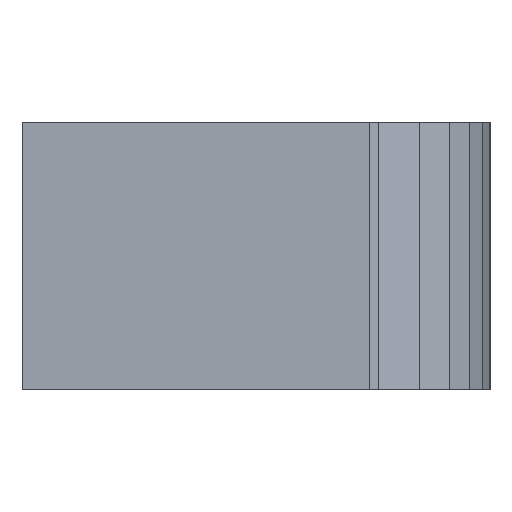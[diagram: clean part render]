
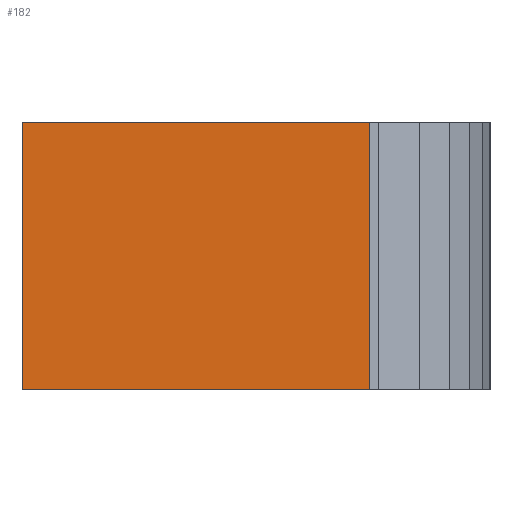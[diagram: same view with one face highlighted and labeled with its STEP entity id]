
A CAD part, front view. The second image highlights one B-rep face of the part: STEP entity #182.
In plain terms, the highlighted planar face has unit normal (0, -1, 0).
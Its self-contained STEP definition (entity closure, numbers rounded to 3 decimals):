
#37 = VECTOR ( 'NONE', #72, 1000. ) ;
#72 = DIRECTION ( 'NONE',  ( 1., 0., 0. ) ) ;
#89 = ORIENTED_EDGE ( 'NONE', *, *, #434, .F. ) ;
#112 = CARTESIAN_POINT ( 'NONE',  ( 13.006, 0., -10. ) ) ;
#114 = EDGE_CURVE ( 'NONE', #531, #712, #496, .T. ) ;
#182 = ADVANCED_FACE ( 'NONE', ( #436 ), #672, .T. ) ;
#186 = DIRECTION ( 'NONE',  ( 1., 0., 0. ) ) ;
#187 = ORIENTED_EDGE ( 'NONE', *, *, #114, .T. ) ;
#202 = CARTESIAN_POINT ( 'NONE',  ( 0., 0., 0. ) ) ;
#217 = DIRECTION ( 'NONE',  ( 0., 0., 1. ) ) ;
#291 = LINE ( 'NONE', #715, #914 ) ;
#406 = VERTEX_POINT ( 'NONE', #707 ) ;
#434 = EDGE_CURVE ( 'NONE', #531, #840, #291, .T. ) ;
#436 = FACE_OUTER_BOUND ( 'NONE', #457, .T. ) ;
#450 = CARTESIAN_POINT ( 'NONE',  ( 13.006, 0., -10. ) ) ;
#457 = EDGE_LOOP ( 'NONE', ( #1304, #89, #187, #1223 ) ) ;
#496 = LINE ( 'NONE', #1240, #37 ) ;
#531 = VERTEX_POINT ( 'NONE', #642 ) ;
#552 = LINE ( 'NONE', #450, #1109 ) ;
#558 = AXIS2_PLACEMENT_3D ( 'NONE', #866, #678, #1305 ) ;
#621 = LINE ( 'NONE', #823, #667 ) ;
#642 = CARTESIAN_POINT ( 'NONE',  ( 0., 0., -10. ) ) ;
#667 = VECTOR ( 'NONE', #186, 1000. ) ;
#672 = PLANE ( 'NONE',  #558 ) ;
#678 = DIRECTION ( 'NONE',  ( 0., -1., 0. ) ) ;
#707 = CARTESIAN_POINT ( 'NONE',  ( 13.006, 0., 0. ) ) ;
#712 = VERTEX_POINT ( 'NONE', #112 ) ;
#715 = CARTESIAN_POINT ( 'NONE',  ( 0., 0., -10. ) ) ;
#743 = EDGE_CURVE ( 'NONE', #840, #406, #621, .T. ) ;
#823 = CARTESIAN_POINT ( 'NONE',  ( 13.006, 0., 0. ) ) ;
#840 = VERTEX_POINT ( 'NONE', #202 ) ;
#866 = CARTESIAN_POINT ( 'NONE',  ( 13.006, 0., -10. ) ) ;
#914 = VECTOR ( 'NONE', #1234, 1000. ) ;
#921 = EDGE_CURVE ( 'NONE', #712, #406, #552, .T. ) ;
#1109 = VECTOR ( 'NONE', #217, 1000. ) ;
#1223 = ORIENTED_EDGE ( 'NONE', *, *, #921, .T. ) ;
#1234 = DIRECTION ( 'NONE',  ( 0., 0., 1. ) ) ;
#1240 = CARTESIAN_POINT ( 'NONE',  ( 13.006, 0., -10. ) ) ;
#1304 = ORIENTED_EDGE ( 'NONE', *, *, #743, .F. ) ;
#1305 = DIRECTION ( 'NONE',  ( 0., 0., -1. ) ) ;
